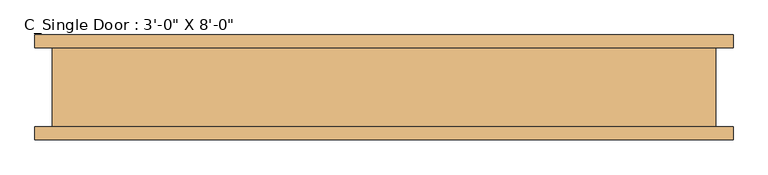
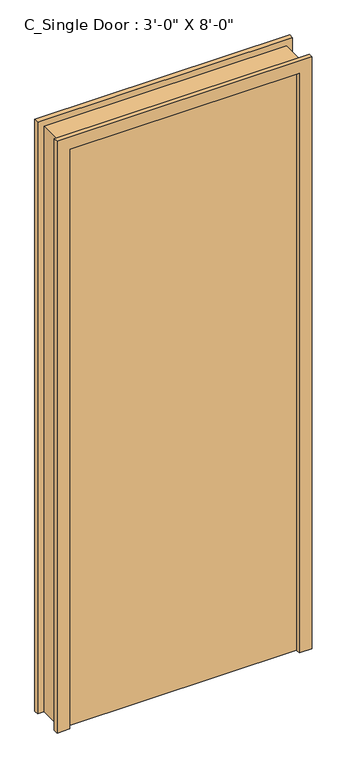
"""IFC4 building model written with IfcOpenShell, lengths in millimetres: door geometry."""

from ifc_helpers import new_model, si_unit, frame, origin, origin_with_axes, place, context, project, spatial, polyline, outline, extrude, source, transform, mapped, element, save


def door_a6e0097c(model_context):
    return source(origin(), model_context, "Body", "SweptSolid", [
        extrude(outline(polyline([(457.2, -57.15), (-457.2, -57.15), (-457.2, -6.35), (457.2, -6.35), (457.2, -57.15)])), origin_with_axes(), (0.0, 0.0, 1.0), 2438.4),
        extrude(outline(polyline([(2438.4, -457.2), (2438.4, 457.2), (0.0, 457.2), (0.0, 508.0), (2489.2, 508.0), (2489.2, -508.0), (0.0, -508.0), (0.0, -457.2), (2438.4, -457.2)])), frame((0.0, -76.2, 0.0), z_axis=(0.0, 1.0, 0.0), x_axis=(0.0, 0.0, 1.0)), (0.0, 0.0, 1.0), 19.05),
        extrude(outline(polyline([(2438.4, -457.2), (2438.4, 457.2), (0.0, 457.2), (0.0, 508.0), (2489.2, 508.0), (2489.2, -508.0), (0.0, -508.0), (0.0, -457.2), (2438.4, -457.2)])), frame((0.0, 57.15, 0.0), z_axis=(0.0, 1.0, 0.0), x_axis=(0.0, 0.0, 1.0)), (0.0, 0.0, 1.0), 19.05),
        extrude(outline(polyline([(0.0, -482.6), (0.0, -457.2), (2438.4, -457.2), (2438.4, 457.2), (0.0, 457.2), (0.0, 482.6), (2463.8, 482.6), (2463.8, -482.6), (0.0, -482.6)])), frame((0.0, -57.15, 0.0), z_axis=(0.0, 1.0, 0.0), x_axis=(0.0, 0.0, 1.0)), (0.0, 0.0, 1.0), 114.3),
    ])


if __name__ == "__main__":
    model = new_model("IFC4")
    model_context = context("Model", 3, world=origin())
    ifc_project = project(units=[si_unit("LENGTHUNIT", "METRE", prefix="MILLI")], contexts=[model_context])
    site = spatial("IfcSite", under=ifc_project)
    building = spatial("IfcBuilding", under=site)
    placement = place(None, origin())
    door_shape = door_a6e0097c(model_context)
    element("IfcDoor", 1, ObjectType="C_Single Door : 3'-0\" X 8'-0\"", at=placement, inside=building, context=model_context, shape_type="MappedRepresentation", body=[
        mapped(door_shape, transform((0.0, 0.0, 0.0), x_axis=(1.0, 0.0, 0.0), y_axis=(0.0, 1.0, 0.0), z_axis=(0.0, 0.0, 1.0))),
    ])
    save(model, "model.ifc")
